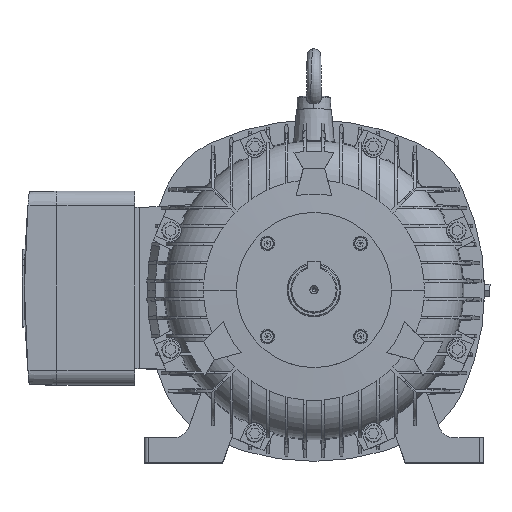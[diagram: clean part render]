
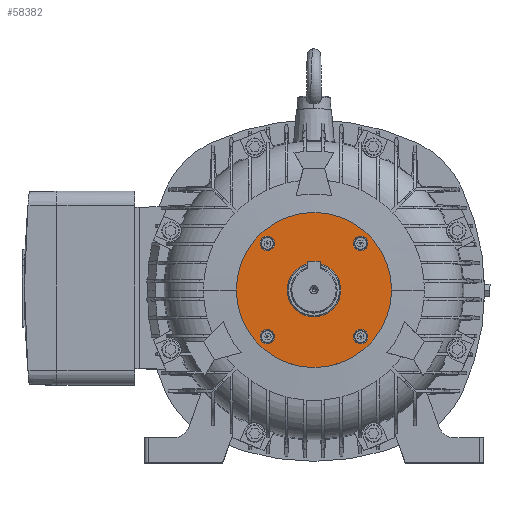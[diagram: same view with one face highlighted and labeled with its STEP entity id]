
A CAD part, top view. The second image highlights one B-rep face of the part: STEP entity #58382.
In plain terms, the highlighted planar face has unit normal (0, 0, 1).
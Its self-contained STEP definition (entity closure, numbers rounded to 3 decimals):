
#8068 = CARTESIAN_POINT ( 'NONE',  ( 27.55, 0., 237. ) ) ;
#8092 = CARTESIAN_POINT ( 'NONE',  ( -27.55, 0., 237. ) ) ;
#8101 = DIRECTION ( 'NONE',  ( -1., 0., 0. ) ) ;
#8102 = DIRECTION ( 'NONE',  ( 0., 0., -1. ) ) ;
#8103 = CARTESIAN_POINT ( 'NONE',  ( 0., 0., 237. ) ) ;
#8104 = AXIS2_PLACEMENT_3D ( 'NONE', #8103, #8102, #8101 ) ;
#8105 = CIRCLE ( 'NONE', #8104, 27.55 ) ;
#8283 = CARTESIAN_POINT ( 'NONE',  ( -80., 0., 237. ) ) ;
#8331 = DIRECTION ( 'NONE',  ( -1., 0., 0. ) ) ;
#8332 = DIRECTION ( 'NONE',  ( 0., 0., -1. ) ) ;
#8333 = CARTESIAN_POINT ( 'NONE',  ( 0., 0., 237. ) ) ;
#8334 = AXIS2_PLACEMENT_3D ( 'NONE', #8333, #8332, #8331 ) ;
#8335 = CIRCLE ( 'NONE', #8334, 80. ) ;
#8376 = CARTESIAN_POINT ( 'NONE',  ( 80., 0., 237. ) ) ;
#19170 = VERTEX_POINT ( 'NONE', #8068 ) ;
#19184 = EDGE_CURVE ( 'NONE', #19170, #19188, #8105, .T. ) ;
#19188 = VERTEX_POINT ( 'NONE', #8092 ) ;
#19275 = VERTEX_POINT ( 'NONE', #8283 ) ;
#19281 = EDGE_CURVE ( 'NONE', #19275, #19290, #8335, .T. ) ;
#19290 = VERTEX_POINT ( 'NONE', #8376 ) ;
#31361 = DIRECTION ( 'NONE',  ( -1., 0., 0. ) ) ;
#31362 = DIRECTION ( 'NONE',  ( 0., 0., 1. ) ) ;
#31363 = AXIS2_PLACEMENT_3D ( 'NONE', #31368, #31362, #31361 ) ;
#31364 = CIRCLE ( 'NONE', #31363, 7.5 ) ;
#31368 = CARTESIAN_POINT ( 'NONE',  ( 48.083, -48.083, 237. ) ) ;
#31390 = DIRECTION ( 'NONE',  ( -1., 0., 0. ) ) ;
#31391 = DIRECTION ( 'NONE',  ( 0., 0., -1. ) ) ;
#31392 = CARTESIAN_POINT ( 'NONE',  ( 0., 0., 237. ) ) ;
#31393 = AXIS2_PLACEMENT_3D ( 'NONE', #31392, #31391, #31390 ) ;
#31394 = CIRCLE ( 'NONE', #31393, 27.55 ) ;
#31420 = DIRECTION ( 'NONE',  ( -1., 0., 0. ) ) ;
#31421 = DIRECTION ( 'NONE',  ( 0., 0., -1. ) ) ;
#31422 = CARTESIAN_POINT ( 'NONE',  ( 0., 0., 237. ) ) ;
#31423 = AXIS2_PLACEMENT_3D ( 'NONE', #31422, #31421, #31420 ) ;
#31424 = CIRCLE ( 'NONE', #31423, 80. ) ;
#31425 = DIRECTION ( 'NONE',  ( 1., 0., 0. ) ) ;
#31426 = DIRECTION ( 'NONE',  ( 0., 0., 1. ) ) ;
#31427 = CARTESIAN_POINT ( 'NONE',  ( 48.083, 48.083, 237. ) ) ;
#31428 = AXIS2_PLACEMENT_3D ( 'NONE', #31427, #31426, #31425 ) ;
#31429 = CIRCLE ( 'NONE', #31428, 7.5 ) ;
#49446 = CARTESIAN_POINT ( 'NONE',  ( 40.583, 48.083, 237. ) ) ;
#49464 = CARTESIAN_POINT ( 'NONE',  ( 55.583, -48.083, 237. ) ) ;
#49497 = CARTESIAN_POINT ( 'NONE',  ( -40.583, -48.083, 237. ) ) ;
#49498 = DIRECTION ( 'NONE',  ( 1., 0., 0. ) ) ;
#49499 = DIRECTION ( 'NONE',  ( 0., 0., 1. ) ) ;
#49500 = CARTESIAN_POINT ( 'NONE',  ( -48.083, -48.083, 237. ) ) ;
#49501 = AXIS2_PLACEMENT_3D ( 'NONE', #49500, #49499, #49498 ) ;
#49502 = CIRCLE ( 'NONE', #49501, 7.5 ) ;
#49503 = CARTESIAN_POINT ( 'NONE',  ( -55.583, -48.083, 237. ) ) ;
#49651 = CARTESIAN_POINT ( 'NONE',  ( 40.583, -48.083, 237. ) ) ;
#49675 = CARTESIAN_POINT ( 'NONE',  ( 55.583, 48.083, 237. ) ) ;
#49676 = DIRECTION ( 'NONE',  ( 1., 0., 0. ) ) ;
#49677 = DIRECTION ( 'NONE',  ( 0., 0., 1. ) ) ;
#49678 = CARTESIAN_POINT ( 'NONE',  ( 48.083, 48.083, 237. ) ) ;
#49679 = AXIS2_PLACEMENT_3D ( 'NONE', #49678, #49677, #49676 ) ;
#49680 = CIRCLE ( 'NONE', #49679, 7.5 ) ;
#49713 = DIRECTION ( 'NONE',  ( -1., 0., 0. ) ) ;
#49714 = DIRECTION ( 'NONE',  ( 0., 0., 1. ) ) ;
#49715 = CARTESIAN_POINT ( 'NONE',  ( 48.083, -48.083, 237. ) ) ;
#49716 = AXIS2_PLACEMENT_3D ( 'NONE', #49715, #49714, #49713 ) ;
#49717 = CIRCLE ( 'NONE', #49716, 7.5 ) ;
#50680 = VERTEX_POINT ( 'NONE', #49464 ) ;
#50697 = VERTEX_POINT ( 'NONE', #49446 ) ;
#50702 = VERTEX_POINT ( 'NONE', #49503 ) ;
#50704 = EDGE_CURVE ( 'NONE', #50702, #50705, #49502, .T. ) ;
#50705 = VERTEX_POINT ( 'NONE', #49497 ) ;
#50801 = EDGE_CURVE ( 'NONE', #50697, #50803, #49680, .T. ) ;
#50803 = VERTEX_POINT ( 'NONE', #49675 ) ;
#50825 = VERTEX_POINT ( 'NONE', #49651 ) ;
#50828 = EDGE_CURVE ( 'NONE', #50825, #50680, #49717, .T. ) ;
#54502 = VERTEX_POINT ( 'NONE', #57979 ) ;
#54586 = VERTEX_POINT ( 'NONE', #58457 ) ;
#54588 = EDGE_CURVE ( 'NONE', #54586, #54502, #58564, .T. ) ;
#57979 = CARTESIAN_POINT ( 'NONE',  ( -40.583, 48.083, 237. ) ) ;
#58382 = ADVANCED_FACE ( 'NONE', ( #68046, #67982, #67981, #68044, #68043, #68042 ), #68040, .F. ) ;
#58383 = EDGE_LOOP ( 'NONE', ( #58384, #58387 ) ) ;
#58384 = ORIENTED_EDGE ( 'NONE', *, *, #58386, .F. ) ;
#58386 = EDGE_CURVE ( 'NONE', #54502, #54586, #68017, .T. ) ;
#58387 = ORIENTED_EDGE ( 'NONE', *, *, #54588, .F. ) ;
#58388 = EDGE_LOOP ( 'NONE', ( #58389, #58494 ) ) ;
#58389 = ORIENTED_EDGE ( 'NONE', *, *, #58390, .F. ) ;
#58390 = EDGE_CURVE ( 'NONE', #50705, #50702, #68085, .T. ) ;
#58457 = CARTESIAN_POINT ( 'NONE',  ( -55.583, 48.083, 237. ) ) ;
#58467 = ORIENTED_EDGE ( 'NONE', *, *, #58522, .F. ) ;
#58469 = ORIENTED_EDGE ( 'NONE', *, *, #58471, .T. ) ;
#58471 = EDGE_CURVE ( 'NONE', #19188, #19170, #31394, .T. ) ;
#58473 = ORIENTED_EDGE ( 'NONE', *, *, #19184, .T. ) ;
#58494 = ORIENTED_EDGE ( 'NONE', *, *, #50704, .F. ) ;
#58497 = EDGE_LOOP ( 'NONE', ( #58499, #58502 ) ) ;
#58499 = ORIENTED_EDGE ( 'NONE', *, *, #58500, .F. ) ;
#58500 = EDGE_CURVE ( 'NONE', #50680, #50825, #31364, .T. ) ;
#58502 = ORIENTED_EDGE ( 'NONE', *, *, #50828, .F. ) ;
#58504 = EDGE_LOOP ( 'NONE', ( #58506, #58512 ) ) ;
#58506 = ORIENTED_EDGE ( 'NONE', *, *, #58508, .F. ) ;
#58508 = EDGE_CURVE ( 'NONE', #50803, #50697, #31429, .T. ) ;
#58512 = ORIENTED_EDGE ( 'NONE', *, *, #50801, .F. ) ;
#58514 = EDGE_LOOP ( 'NONE', ( #58515, #58467 ) ) ;
#58515 = ORIENTED_EDGE ( 'NONE', *, *, #19281, .F. ) ;
#58516 = EDGE_LOOP ( 'NONE', ( #58469, #58473 ) ) ;
#58522 = EDGE_CURVE ( 'NONE', #19290, #19275, #31424, .T. ) ;
#58557 = DIRECTION ( 'NONE',  ( -1., 0., 0. ) ) ;
#58559 = DIRECTION ( 'NONE',  ( 0., 0., 1. ) ) ;
#58560 = CARTESIAN_POINT ( 'NONE',  ( -48.083, 48.083, 237. ) ) ;
#58562 = AXIS2_PLACEMENT_3D ( 'NONE', #58560, #58559, #58557 ) ;
#58564 = CIRCLE ( 'NONE', #58562, 7.5 ) ;
#67981 = FACE_BOUND ( 'NONE', #58497, .T. ) ;
#67982 = FACE_BOUND ( 'NONE', #58388, .T. ) ;
#68013 = DIRECTION ( 'NONE',  ( -1., 0., 0. ) ) ;
#68014 = DIRECTION ( 'NONE',  ( 0., 0., 1. ) ) ;
#68015 = CARTESIAN_POINT ( 'NONE',  ( -48.083, 48.083, 237. ) ) ;
#68016 = AXIS2_PLACEMENT_3D ( 'NONE', #68015, #68014, #68013 ) ;
#68017 = CIRCLE ( 'NONE', #68016, 7.5 ) ;
#68018 = CARTESIAN_POINT ( 'NONE',  ( -48.083, -48.083, 237. ) ) ;
#68019 = DIRECTION ( 'NONE',  ( -1., 0., 0. ) ) ;
#68021 = DIRECTION ( 'NONE',  ( 0., 0., -1. ) ) ;
#68038 = CARTESIAN_POINT ( 'NONE',  ( 0., 80., 237. ) ) ;
#68039 = AXIS2_PLACEMENT_3D ( 'NONE', #68038, #68021, #68019 ) ;
#68040 = PLANE ( 'NONE',  #68039 ) ;
#68042 = FACE_BOUND ( 'NONE', #58516, .T. ) ;
#68043 = FACE_OUTER_BOUND ( 'NONE', #58514, .T. ) ;
#68044 = FACE_BOUND ( 'NONE', #58504, .T. ) ;
#68046 = FACE_BOUND ( 'NONE', #58383, .T. ) ;
#68082 = DIRECTION ( 'NONE',  ( 1., 0., 0. ) ) ;
#68083 = DIRECTION ( 'NONE',  ( 0., 0., 1. ) ) ;
#68084 = AXIS2_PLACEMENT_3D ( 'NONE', #68018, #68083, #68082 ) ;
#68085 = CIRCLE ( 'NONE', #68084, 7.5 ) ;
